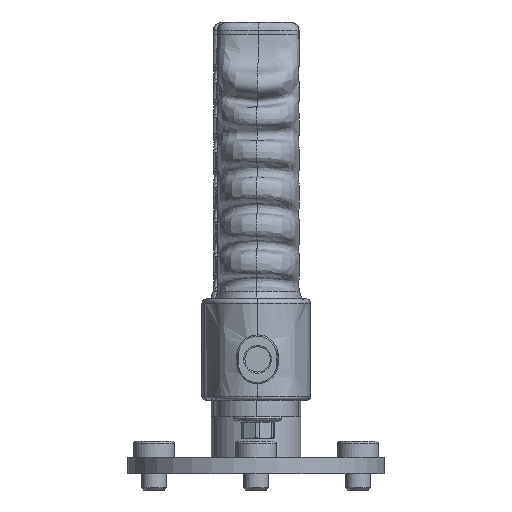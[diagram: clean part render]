
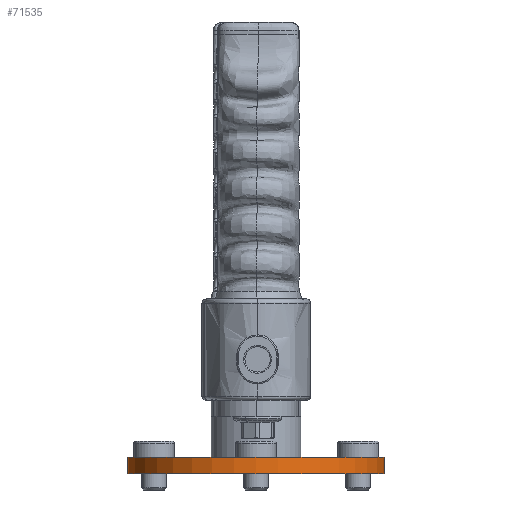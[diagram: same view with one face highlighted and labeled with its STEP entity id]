
A CAD part, front view. The second image highlights one B-rep face of the part: STEP entity #71535.
In plain terms, the highlighted cylindrical face has radius 31.5 mm (diameter 63 mm), a partial arc.
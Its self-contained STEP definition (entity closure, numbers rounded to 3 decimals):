
#144 = CARTESIAN_POINT ( 'NONE',  ( 31.5, 0., 4. ) ) ;
#828 = DIRECTION ( 'NONE',  ( 0., 0., -1. ) ) ;
#1293 = DIRECTION ( 'NONE',  ( 1., 0., 0. ) ) ;
#1676 = DIRECTION ( 'NONE',  ( 0., 0., -1. ) ) ;
#4268 = VERTEX_POINT ( 'NONE', #26703 ) ;
#6012 = DIRECTION ( 'NONE',  ( 0., 0., 1. ) ) ;
#6960 = DIRECTION ( 'NONE',  ( 0., 0., 1. ) ) ;
#7353 = CARTESIAN_POINT ( 'NONE',  ( 0., 0., 4. ) ) ;
#12913 = CIRCLE ( 'NONE', #71038, 31.5 ) ;
#13771 = EDGE_CURVE ( 'NONE', #44281, #63869, #67675, .T. ) ;
#17560 = DIRECTION ( 'NONE',  ( 0., 0., -1. ) ) ;
#22880 = CIRCLE ( 'NONE', #68077, 31.5 ) ;
#25296 = AXIS2_PLACEMENT_3D ( 'NONE', #55846, #828, #63080 ) ;
#25386 = CARTESIAN_POINT ( 'NONE',  ( 0., 0., 0. ) ) ;
#26703 = CARTESIAN_POINT ( 'NONE',  ( -31.5, 0., 0. ) ) ;
#28540 = VERTEX_POINT ( 'NONE', #54515 ) ;
#31707 = ORIENTED_EDGE ( 'NONE', *, *, #31970, .T. ) ;
#31970 = EDGE_CURVE ( 'NONE', #63869, #4268, #12913, .T. ) ;
#38318 = ORIENTED_EDGE ( 'NONE', *, *, #13771, .T. ) ;
#38895 = LINE ( 'NONE', #63538, #71048 ) ;
#44281 = VERTEX_POINT ( 'NONE', #76314 ) ;
#44526 = FACE_OUTER_BOUND ( 'NONE', #74250, .T. ) ;
#48784 = ORIENTED_EDGE ( 'NONE', *, *, #78983, .F. ) ;
#54515 = CARTESIAN_POINT ( 'NONE',  ( -31.5, 0., 4. ) ) ;
#55846 = CARTESIAN_POINT ( 'NONE',  ( 0., 0., 4. ) ) ;
#58144 = EDGE_CURVE ( 'NONE', #28540, #4268, #38895, .T. ) ;
#61019 = DIRECTION ( 'NONE',  ( 1., 0., 0. ) ) ;
#63080 = DIRECTION ( 'NONE',  ( -1., 0., 0. ) ) ;
#63538 = CARTESIAN_POINT ( 'NONE',  ( -31.5, 0., 4. ) ) ;
#63717 = ORIENTED_EDGE ( 'NONE', *, *, #58144, .F. ) ;
#63869 = VERTEX_POINT ( 'NONE', #75434 ) ;
#67675 = LINE ( 'NONE', #144, #72966 ) ;
#68077 = AXIS2_PLACEMENT_3D ( 'NONE', #7353, #6960, #1293 ) ;
#69158 = CYLINDRICAL_SURFACE ( 'NONE', #25296, 31.5 ) ;
#71038 = AXIS2_PLACEMENT_3D ( 'NONE', #25386, #6012, #61019 ) ;
#71048 = VECTOR ( 'NONE', #1676, 1000. ) ;
#71535 = ADVANCED_FACE ( 'NONE', ( #44526 ), #69158, .T. ) ;
#72966 = VECTOR ( 'NONE', #17560, 1000. ) ;
#74250 = EDGE_LOOP ( 'NONE', ( #48784, #38318, #31707, #63717 ) ) ;
#75434 = CARTESIAN_POINT ( 'NONE',  ( 31.5, 0., 0. ) ) ;
#76314 = CARTESIAN_POINT ( 'NONE',  ( 31.5, 0., 4. ) ) ;
#78983 = EDGE_CURVE ( 'NONE', #44281, #28540, #22880, .T. ) ;
